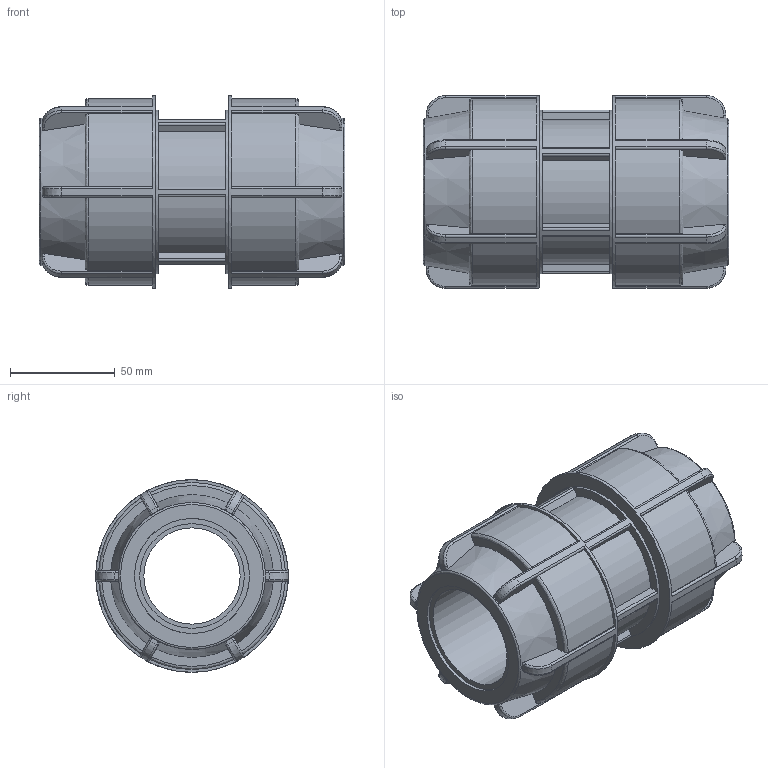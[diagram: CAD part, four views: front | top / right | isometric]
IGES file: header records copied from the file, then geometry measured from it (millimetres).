
Global section: file name: 140100050.ipt; native system: Autodesk Inventor 2015; preprocessor: unknown; author: KIM; date: 20180612.155251; units: millimetre
Bounding box: 146 x 91.99 x 92 mm (x, y, z)
Volume: 472554.3 mm3; surface area: 79215.3 mm2
Topology: 1 solids, 1 shells, 230 faces, 609 edges, 392 vertices
Faces by surface type: plane 92, cylinder 81, revolution 31, bspline 24, cone 2
Full cylindrical faces by diameter (mm): 78.2 x1, 92 x2
